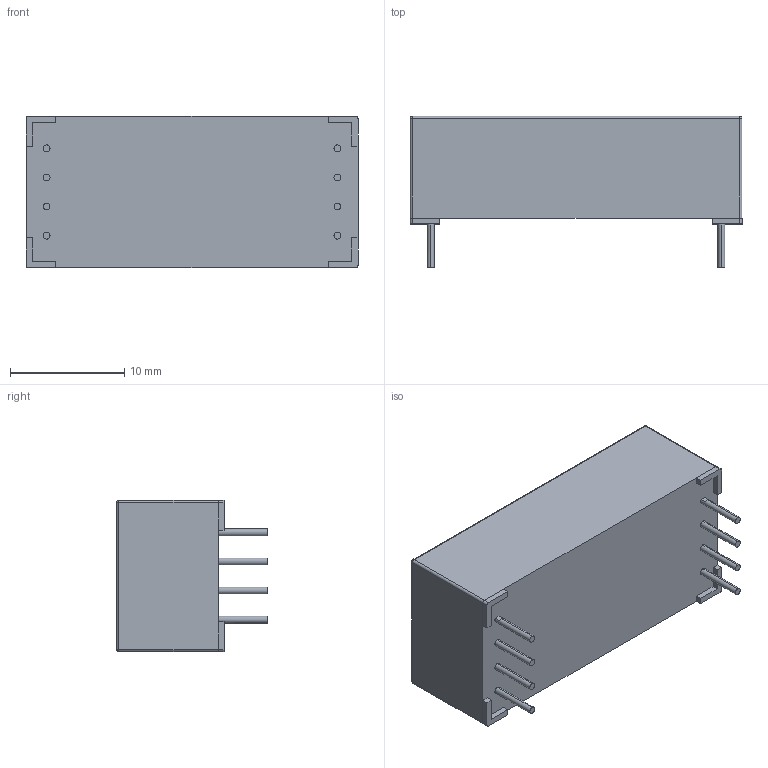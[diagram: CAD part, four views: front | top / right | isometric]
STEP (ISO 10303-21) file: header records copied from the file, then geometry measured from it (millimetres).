
FILE_DESCRIPTION (( 'STEP AP203' ), '1' );
FILE_NAME ('89-2-C.STEP', '2010-06-29T13:55:24', ( ' ' ), ( '' ), 'SwSTEP 2.0', 'SolidWorks 2009', '' );
FILE_SCHEMA (( 'CONFIG_CONTROL_DESIGN' ));
Length unit declared in the file: millimetre
Products named in the file (1): 89-2-C
Bounding box: 29 x 13.2 x 13.2 mm (x, y, z)
Volume: 3415.6 mm3; surface area: 1591.2 mm2
Topology: 1 solids, 1 shells, 734 faces, 1938 edges, 1280 vertices
Faces by surface type: plane 441, bspline 261, cylinder 28, sphere 4
Entity records: 36401 total; most frequent: CARTESIAN_POINT 19906, ORIENTED_EDGE 3868, DIRECTION 2420, EDGE_CURVE 1934, VECTOR 1352, LINE 1352, VERTEX_POINT 1280, EDGE_LOOP 812
